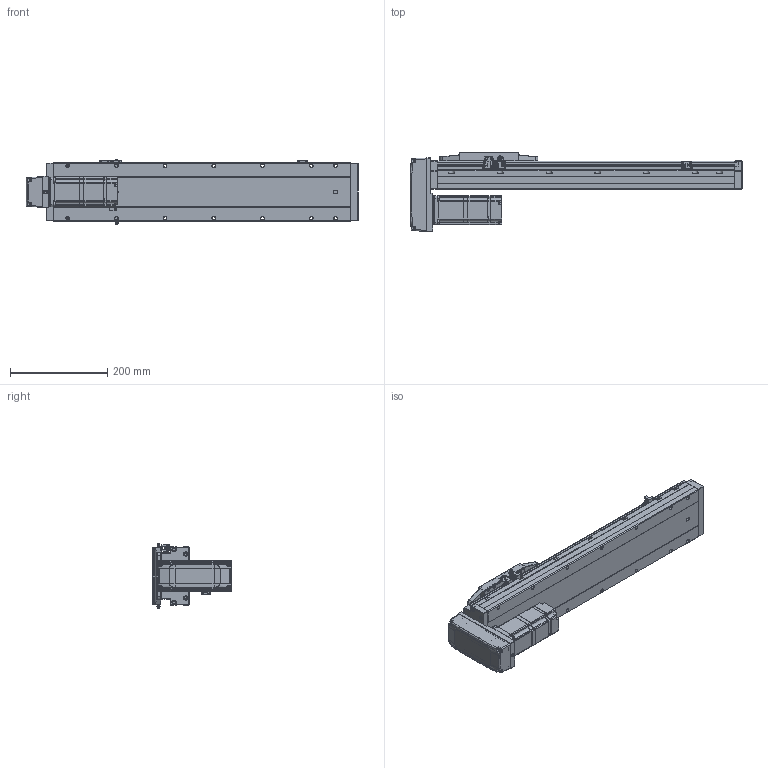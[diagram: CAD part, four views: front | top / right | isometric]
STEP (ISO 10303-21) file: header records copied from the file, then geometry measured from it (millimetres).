
FILE_DESCRIPTION (( 'STEP AP214' ), '1' );
FILE_NAME ('CTH12-L10-S400-BM-C40（简）.STEP', '2023-02-04T06:50:28', ( '' ), ( '' ), 'SwSTEP 2.0', 'SolidWorks 2018', '' );
FILE_SCHEMA (( 'AUTOMOTIVE_DESIGN' ));
Length unit declared in the file: millimetre
Products named in the file (25): 湮賑怢  裔赽-1(CTH12)賑怢; 内六角圆柱头螺钉M3; CTH嫖萇羲壽假蚾啣; CTH400W假蚾啣; 内六角圆柱头螺钉M3-2; 蚐郲; CTH400W垫板（3个厚）; 内六角圆柱头螺钉M3-1; 内六角圆柱头螺钉M5装饰螺钉; CTH12賑怢ㄗ潠ㄘ; CTH12-BL_body_4; CTH12; 嫖萇羲壽郪磁1; CTH12底座-L611简（400行程）; AC60_Valor predeterminado; BM-C40; CTH12-L10-S400-BM-C40（简）; 嫖萇羲壽郪磁2; CTH12賑怢郪磁; CTH8耜蚾蟀諉啣ㄗ潠ㄘ; CTH12-BM-02; hex nuts, style 1-grades ab gb_GB_FASTENER_NUT_SNAB1 M3-N; CTH12_body_3; PM-Y45; CTH12覜茼え
Assembly tree (45 placements, depth 4):
  CTH12-L10-S400-BM-C40（简）
    CTH12底座-L611简（400行程）
    蚐郲  x2
    CTH12_body_3
    CTH12-BL_body_4
    CTH12賑怢郪磁
      CTH12
        湮賑怢  裔赽-1(CTH12)賑怢
        CTH12賑怢ㄗ潠ㄘ
    CTH12覜茼え
    嫖萇羲壽郪磁1  x2
      CTH嫖萇羲壽假蚾啣
      PM-Y45
      内六角圆柱头螺钉M3-2
      内六角圆柱头螺钉M3-1
      hex nuts, style 1-grades ab gb_GB_FASTENER_NUT_SNAB1 M3-N
    嫖萇羲壽郪磁2
      CTH嫖萇羲壽假蚾啣
      PM-Y45
      内六角圆柱头螺钉M3-1  x2
      内六角圆柱头螺钉M3-2  x2
      hex nuts, style 1-grades ab gb_GB_FASTENER_NUT_SNAB1 M3-N  x2
    BM-C40
      CTH12-BM-02
      CTH8耜蚾蟀諉啣ㄗ潠ㄘ
    CTH400W垫板（3个厚）
    AC60_Valor predeterminado
    内六角圆柱头螺钉M3  x6
    内六角圆柱头螺钉M5装饰螺钉  x4
    CTH400W假蚾啣
Bounding box: 681.5 x 162.5 x 131.52 mm (x, y, z)
Volume: 4814839.6 mm3; surface area: 531710.5 mm2
Topology: 47 solids, 48 shells, 2718 faces, 6882 edges, 4383 vertices
Faces by surface type: plane 1470, cylinder 811, cone 279, bspline 106, torus 52
Entity records: 74097 total; most frequent: CARTESIAN_POINT 17261, ORIENTED_EDGE 10944, DIRECTION 10873, EDGE_CURVE 5472, AXIS2_PLACEMENT_3D 3691, VECTOR 3491, LINE 3491, VERTEX_POINT 3487
